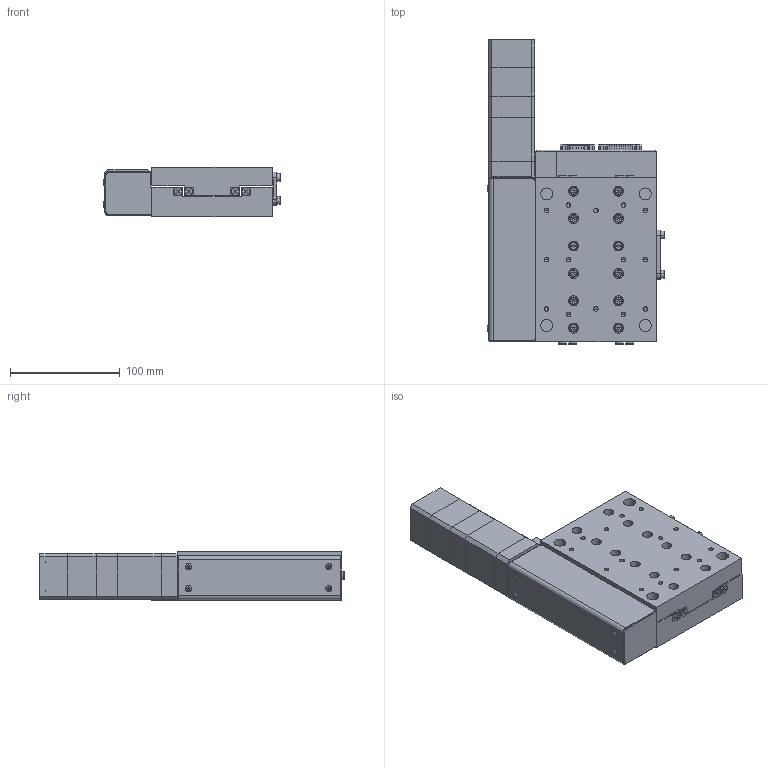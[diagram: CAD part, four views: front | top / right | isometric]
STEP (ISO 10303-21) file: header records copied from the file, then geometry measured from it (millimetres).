
FILE_DESCRIPTION (( 'STEP AP214' ), '1' );
FILE_NAME ('LNS-050-BS-M-H-S-D-EXPORT.STEP', '2025-06-27T18:09:29', ( 'lab' ), ( '' ), 'SwSTEP 2.0', 'SolidWorks 2018', '' );
FILE_SCHEMA (( 'AUTOMOTIVE_DESIGN' ));
Length unit declared in the file: millimetre
Products named in the file (12): 1000011_file_export14; 1000001_file_export0; 1000010_file_export16; 1000007_file_export9; 1000013_file_export22; 1000009; 1000016_file_export20; 1000015_file_export21; 1000014_file_export23; LNS-050-BS-M-H-S-D-EXPORT; 1000008_file_export10; 1000012_file_export17
Assembly tree (17 placements, depth 2):
  LNS-050-BS-M-H-S-D-EXPORT
    1000001_file_export0
    1000007_file_export9
    1000008_file_export10
    1000009
    1000010_file_export16  x4
    1000011_file_export14
    1000012_file_export17
    1000013_file_export22  x4
    1000014_file_export23
    1000015_file_export21
    1000016_file_export20
Bounding box: 162.5 x 277.65 x 45 mm (x, y, z)
Volume: 1228992.7 mm3; surface area: 242377.8 mm2
Topology: 73 solids, 73 shells, 1750 faces, 3964 edges, 2399 vertices
Faces by surface type: plane 1086, cylinder 326, bspline 170, cone 160, torus 8
Entity records: 55362 total; most frequent: CARTESIAN_POINT 13752, DIRECTION 7210, ORIENTED_EDGE 7168, EDGE_CURVE 3584, AXIS2_PLACEMENT_3D 2420, VECTOR 2370, LINE 2370, VERTEX_POINT 2222
